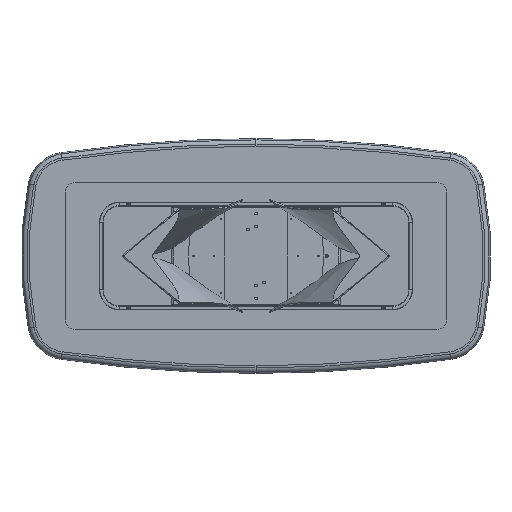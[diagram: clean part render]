
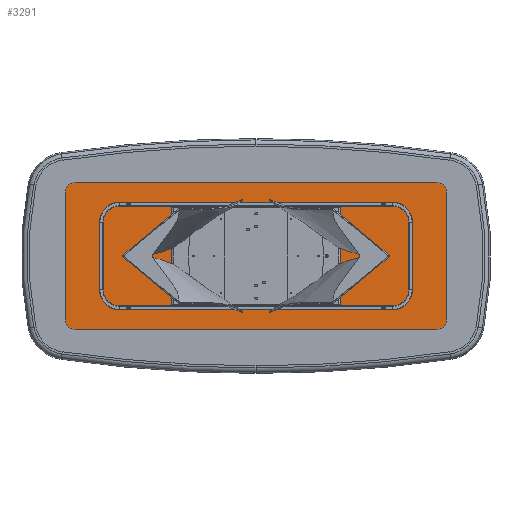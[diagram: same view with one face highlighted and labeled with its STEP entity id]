
A CAD part, front view. The second image highlights one B-rep face of the part: STEP entity #3291.
In plain terms, the highlighted planar face has unit normal (0, -1, 0).
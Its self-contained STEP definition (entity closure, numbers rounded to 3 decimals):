
#98 = ORIENTED_EDGE ( 'NONE', *, *, #24762, .T. ) ;
#270 = AXIS2_PLACEMENT_3D ( 'NONE', #26486, #10441, #27025 ) ;
#314 = EDGE_CURVE ( 'NONE', #5127, #15142, #11220, .T. ) ;
#722 = CARTESIAN_POINT ( 'NONE',  ( -925., -35.5, -325. ) ) ;
#841 = CARTESIAN_POINT ( 'NONE',  ( 650., -35.5, 265. ) ) ;
#1100 = CIRCLE ( 'NONE', #23821, 5. ) ;
#1285 = DIRECTION ( 'NONE',  ( 0., 0., -1. ) ) ;
#1354 = CARTESIAN_POINT ( 'NONE',  ( -975., -35.5, -325. ) ) ;
#1355 = ORIENTED_EDGE ( 'NONE', *, *, #17238, .T. ) ;
#1397 = CIRCLE ( 'NONE', #10119, 50. ) ;
#1724 = DIRECTION ( 'NONE',  ( 0., 0., -1. ) ) ;
#1939 = VERTEX_POINT ( 'NONE', #5577 ) ;
#2038 = FACE_BOUND ( 'NONE', #12349, .T. ) ;
#2083 = ORIENTED_EDGE ( 'NONE', *, *, #21161, .F. ) ;
#2176 = CARTESIAN_POINT ( 'NONE',  ( 925., -35.5, -375. ) ) ;
#2270 = AXIS2_PLACEMENT_3D ( 'NONE', #722, #2764, #11245 ) ;
#2274 = ORIENTED_EDGE ( 'NONE', *, *, #20074, .T. ) ;
#2440 = VERTEX_POINT ( 'NONE', #24701 ) ;
#2540 = CARTESIAN_POINT ( 'NONE',  ( 925., -35.5, 325. ) ) ;
#2658 = EDGE_CURVE ( 'NONE', #18252, #5777, #16473, .T. ) ;
#2764 = DIRECTION ( 'NONE',  ( 0., -1., 0. ) ) ;
#3087 = CARTESIAN_POINT ( 'NONE',  ( 650., -35.5, 265. ) ) ;
#3266 = LINE ( 'NONE', #20251, #19254 ) ;
#3291 = ADVANCED_FACE ( 'NONE', ( #2038, #12939, #8027, #14476, #23341 ), #18727, .T. ) ;
#3302 = VERTEX_POINT ( 'NONE', #22698 ) ;
#3319 = EDGE_CURVE ( 'NONE', #14052, #24188, #26041, .T. ) ;
#3360 = AXIS2_PLACEMENT_3D ( 'NONE', #25387, #10456, #22926 ) ;
#3877 = DIRECTION ( 'NONE',  ( 0., 0., 1. ) ) ;
#4123 = CIRCLE ( 'NONE', #19445, 5. ) ;
#4403 = CARTESIAN_POINT ( 'NONE',  ( 650., -35.5, 260. ) ) ;
#4591 = DIRECTION ( 'NONE',  ( 0., 0., -1. ) ) ;
#4765 = VERTEX_POINT ( 'NONE', #1354 ) ;
#4840 = LINE ( 'NONE', #13724, #14182 ) ;
#4972 = DIRECTION ( 'NONE',  ( -1., 0., 0. ) ) ;
#5127 = VERTEX_POINT ( 'NONE', #2176 ) ;
#5139 = CARTESIAN_POINT ( 'NONE',  ( -925., -35.5, -375. ) ) ;
#5263 = CARTESIAN_POINT ( 'NONE',  ( -650., -35.5, 260. ) ) ;
#5270 = VERTEX_POINT ( 'NONE', #11189 ) ;
#5577 = CARTESIAN_POINT ( 'NONE',  ( -650., -35.5, -260. ) ) ;
#5777 = VERTEX_POINT ( 'NONE', #5263 ) ;
#5811 = CARTESIAN_POINT ( 'NONE',  ( -650., -35.5, 270. ) ) ;
#6049 = DIRECTION ( 'NONE',  ( 0., -1., 0. ) ) ;
#6341 = AXIS2_PLACEMENT_3D ( 'NONE', #8168, #10237, #4591 ) ;
#6689 = ORIENTED_EDGE ( 'NONE', *, *, #314, .T. ) ;
#6738 = ORIENTED_EDGE ( 'NONE', *, *, #16868, .F. ) ;
#6939 = CARTESIAN_POINT ( 'NONE',  ( 925., -35.5, 375. ) ) ;
#7535 = EDGE_LOOP ( 'NONE', ( #11410, #2083 ) ) ;
#7575 = LINE ( 'NONE', #18403, #21252 ) ;
#7829 = EDGE_LOOP ( 'NONE', ( #22356, #24206, #6689, #23578, #25535, #1355, #2274, #98 ) ) ;
#7974 = EDGE_CURVE ( 'NONE', #13533, #5127, #3266, .T. ) ;
#8027 = FACE_BOUND ( 'NONE', #22700, .T. ) ;
#8168 = CARTESIAN_POINT ( 'NONE',  ( -925., -35.5, -325. ) ) ;
#8339 = DIRECTION ( 'NONE',  ( 0., 0., -1. ) ) ;
#8487 = CARTESIAN_POINT ( 'NONE',  ( 650., -35.5, -260. ) ) ;
#8570 = EDGE_CURVE ( 'NONE', #5270, #21774, #4123, .T. ) ;
#8818 = DIRECTION ( 'NONE',  ( 0., 0., -1. ) ) ;
#9177 = DIRECTION ( 'NONE',  ( 0., 0., -1. ) ) ;
#9503 = ORIENTED_EDGE ( 'NONE', *, *, #2658, .F. ) ;
#10119 = AXIS2_PLACEMENT_3D ( 'NONE', #24818, #6049, #1285 ) ;
#10237 = DIRECTION ( 'NONE',  ( 0., -1., 0. ) ) ;
#10441 = DIRECTION ( 'NONE',  ( 0., -1., 0. ) ) ;
#10456 = DIRECTION ( 'NONE',  ( 0., -1., 0. ) ) ;
#10578 = CIRCLE ( 'NONE', #11011, 5. ) ;
#11011 = AXIS2_PLACEMENT_3D ( 'NONE', #25942, #19788, #13204 ) ;
#11072 = VECTOR ( 'NONE', #3877, 1000. ) ;
#11189 = CARTESIAN_POINT ( 'NONE',  ( 650., -35.5, -270. ) ) ;
#11220 = CIRCLE ( 'NONE', #12534, 50. ) ;
#11234 = CARTESIAN_POINT ( 'NONE',  ( 975., -35.5, -325. ) ) ;
#11245 = DIRECTION ( 'NONE',  ( 0., 0., -1. ) ) ;
#11274 = ORIENTED_EDGE ( 'NONE', *, *, #8570, .F. ) ;
#11410 = ORIENTED_EDGE ( 'NONE', *, *, #19891, .F. ) ;
#11438 = DIRECTION ( 'NONE',  ( 0., 0., -1. ) ) ;
#11821 = LINE ( 'NONE', #26485, #11072 ) ;
#12042 = EDGE_CURVE ( 'NONE', #15142, #14052, #11821, .T. ) ;
#12349 = EDGE_LOOP ( 'NONE', ( #11274, #26841 ) ) ;
#12534 = AXIS2_PLACEMENT_3D ( 'NONE', #25206, #16857, #8339 ) ;
#12939 = FACE_BOUND ( 'NONE', #22012, .T. ) ;
#13033 = CARTESIAN_POINT ( 'NONE',  ( -925., -35.5, 375. ) ) ;
#13204 = DIRECTION ( 'NONE',  ( 0., 0., -1. ) ) ;
#13533 = VERTEX_POINT ( 'NONE', #5139 ) ;
#13611 = ORIENTED_EDGE ( 'NONE', *, *, #15736, .F. ) ;
#13724 = CARTESIAN_POINT ( 'NONE',  ( 925., -35.5, 375. ) ) ;
#13954 = DIRECTION ( 'NONE',  ( 0., -1., 0. ) ) ;
#14052 = VERTEX_POINT ( 'NONE', #21143 ) ;
#14182 = VECTOR ( 'NONE', #4972, 1000. ) ;
#14476 = FACE_BOUND ( 'NONE', #7535, .T. ) ;
#15032 = VERTEX_POINT ( 'NONE', #4403 ) ;
#15142 = VERTEX_POINT ( 'NONE', #11234 ) ;
#15388 = CIRCLE ( 'NONE', #20645, 5. ) ;
#15532 = DIRECTION ( 'NONE',  ( 0., 0., -1. ) ) ;
#15736 = EDGE_CURVE ( 'NONE', #2440, #15032, #1100, .T. ) ;
#15818 = DIRECTION ( 'NONE',  ( 0., 0., -1. ) ) ;
#16278 = DIRECTION ( 'NONE',  ( 0., 0., -1. ) ) ;
#16473 = CIRCLE ( 'NONE', #3360, 5. ) ;
#16857 = DIRECTION ( 'NONE',  ( 0., -1., 0. ) ) ;
#16868 = EDGE_CURVE ( 'NONE', #15032, #2440, #25554, .T. ) ;
#17238 = EDGE_CURVE ( 'NONE', #24188, #17554, #4840, .T. ) ;
#17265 = CIRCLE ( 'NONE', #270, 5. ) ;
#17458 = DIRECTION ( 'NONE',  ( 0., -1., 0. ) ) ;
#17554 = VERTEX_POINT ( 'NONE', #13033 ) ;
#17686 = EDGE_CURVE ( 'NONE', #4765, #13533, #20188, .T. ) ;
#18252 = VERTEX_POINT ( 'NONE', #5811 ) ;
#18403 = CARTESIAN_POINT ( 'NONE',  ( -975., -35.5, -325. ) ) ;
#18727 = PLANE ( 'NONE',  #6341 ) ;
#19091 = AXIS2_PLACEMENT_3D ( 'NONE', #26422, #13954, #16278 ) ;
#19123 = CARTESIAN_POINT ( 'NONE',  ( -650., -35.5, -270. ) ) ;
#19254 = VECTOR ( 'NONE', #24473, 1000. ) ;
#19445 = AXIS2_PLACEMENT_3D ( 'NONE', #25128, #22934, #1724 ) ;
#19737 = DIRECTION ( 'NONE',  ( 0., -1., 0. ) ) ;
#19788 = DIRECTION ( 'NONE',  ( 0., -1., 0. ) ) ;
#19848 = VERTEX_POINT ( 'NONE', #19123 ) ;
#19891 = EDGE_CURVE ( 'NONE', #19848, #1939, #10578, .T. ) ;
#19923 = EDGE_CURVE ( 'NONE', #21774, #5270, #15388, .T. ) ;
#19939 = AXIS2_PLACEMENT_3D ( 'NONE', #2540, #26809, #8818 ) ;
#20074 = EDGE_CURVE ( 'NONE', #17554, #3302, #1397, .T. ) ;
#20188 = CIRCLE ( 'NONE', #2270, 50. ) ;
#20251 = CARTESIAN_POINT ( 'NONE',  ( 925., -35.5, -375. ) ) ;
#20645 = AXIS2_PLACEMENT_3D ( 'NONE', #21566, #17458, #15532 ) ;
#21143 = CARTESIAN_POINT ( 'NONE',  ( 975., -35.5, 325. ) ) ;
#21161 = EDGE_CURVE ( 'NONE', #1939, #19848, #17265, .T. ) ;
#21252 = VECTOR ( 'NONE', #15818, 1000. ) ;
#21566 = CARTESIAN_POINT ( 'NONE',  ( 650., -35.5, -265. ) ) ;
#21774 = VERTEX_POINT ( 'NONE', #8487 ) ;
#21991 = DIRECTION ( 'NONE',  ( 0., -1., 0. ) ) ;
#22012 = EDGE_LOOP ( 'NONE', ( #6738, #13611 ) ) ;
#22356 = ORIENTED_EDGE ( 'NONE', *, *, #17686, .T. ) ;
#22470 = AXIS2_PLACEMENT_3D ( 'NONE', #841, #19737, #9177 ) ;
#22698 = CARTESIAN_POINT ( 'NONE',  ( -975., -35.5, 325. ) ) ;
#22700 = EDGE_LOOP ( 'NONE', ( #23541, #9503 ) ) ;
#22926 = DIRECTION ( 'NONE',  ( 0., 0., -1. ) ) ;
#22934 = DIRECTION ( 'NONE',  ( 0., -1., 0. ) ) ;
#23341 = FACE_OUTER_BOUND ( 'NONE', #7829, .T. ) ;
#23541 = ORIENTED_EDGE ( 'NONE', *, *, #23713, .F. ) ;
#23578 = ORIENTED_EDGE ( 'NONE', *, *, #12042, .T. ) ;
#23713 = EDGE_CURVE ( 'NONE', #5777, #18252, #24328, .T. ) ;
#23821 = AXIS2_PLACEMENT_3D ( 'NONE', #3087, #21991, #11438 ) ;
#24188 = VERTEX_POINT ( 'NONE', #6939 ) ;
#24206 = ORIENTED_EDGE ( 'NONE', *, *, #7974, .T. ) ;
#24328 = CIRCLE ( 'NONE', #19091, 5. ) ;
#24473 = DIRECTION ( 'NONE',  ( 1., 0., 0. ) ) ;
#24701 = CARTESIAN_POINT ( 'NONE',  ( 650., -35.5, 270. ) ) ;
#24762 = EDGE_CURVE ( 'NONE', #3302, #4765, #7575, .T. ) ;
#24818 = CARTESIAN_POINT ( 'NONE',  ( -925., -35.5, 325. ) ) ;
#25128 = CARTESIAN_POINT ( 'NONE',  ( 650., -35.5, -265. ) ) ;
#25206 = CARTESIAN_POINT ( 'NONE',  ( 925., -35.5, -325. ) ) ;
#25387 = CARTESIAN_POINT ( 'NONE',  ( -650., -35.5, 265. ) ) ;
#25535 = ORIENTED_EDGE ( 'NONE', *, *, #3319, .T. ) ;
#25554 = CIRCLE ( 'NONE', #22470, 5. ) ;
#25942 = CARTESIAN_POINT ( 'NONE',  ( -650., -35.5, -265. ) ) ;
#26041 = CIRCLE ( 'NONE', #19939, 50. ) ;
#26422 = CARTESIAN_POINT ( 'NONE',  ( -650., -35.5, 265. ) ) ;
#26485 = CARTESIAN_POINT ( 'NONE',  ( 975., -35.5, -325. ) ) ;
#26486 = CARTESIAN_POINT ( 'NONE',  ( -650., -35.5, -265. ) ) ;
#26809 = DIRECTION ( 'NONE',  ( 0., -1., 0. ) ) ;
#26841 = ORIENTED_EDGE ( 'NONE', *, *, #19923, .F. ) ;
#27025 = DIRECTION ( 'NONE',  ( 0., 0., -1. ) ) ;
